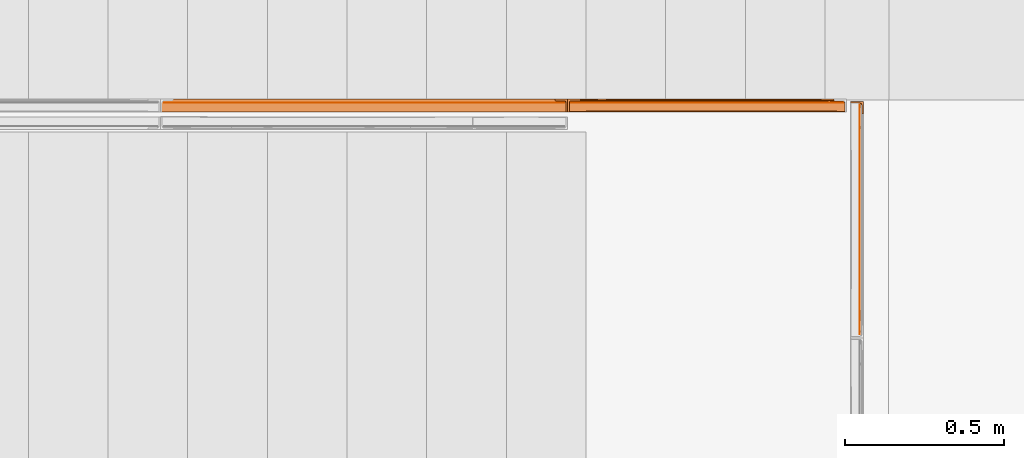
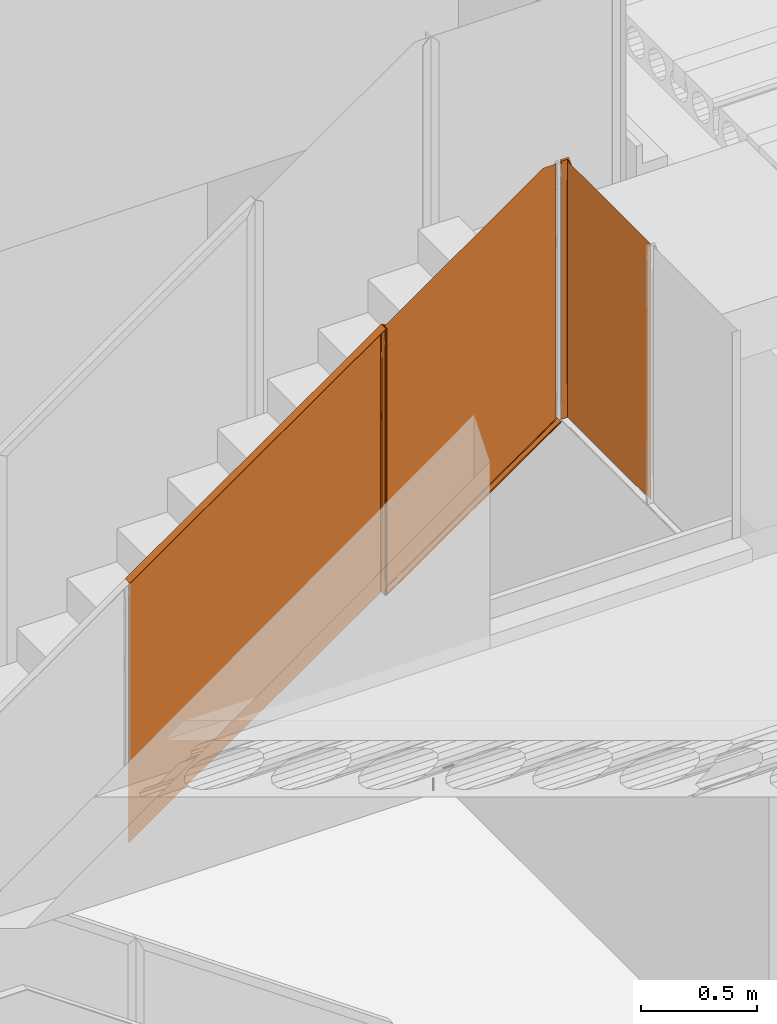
# One storey, part 224 of 230: 8 proxies.
"""IFC4X3_ADD2 building model written with IfcOpenShell, lengths in millimetres."""

import ifcopenshell
import ifcopenshell.guid

model = None  # the IFC model being written
_history = None  # IfcOwnerHistory: only IFC2X3 demands one
_inside = {}  # id of a spatial element -> (the spatial element, [elements in it])
_under = {}  # id of a project, library or spatial element -> (it, [spatial elements below it])
_declared = {}  # id of a project -> (the project, [libraries it declares])
_typed = {}  # id of a type object -> (the type object, [elements of that type])
_made_of = {}  # id of a material, layer set ... -> (it, [elements and type objects made of it])


def new_model(schema):
    """Start an empty IFC model of exactly this schema.

    Asked for "IFC4X3", IfcOpenShell would pick the latest addendum, in which some entities
    have other attributes; the version numbers below select the first issue.
    IFC2X3 requires an IfcOwnerHistory on every rooted entity: one is made here for all.
    """
    global model, _history
    if schema == "IFC4X3":
        model = ifcopenshell.file(schema_version=(4, 3, 0, 0))
    else:
        model = ifcopenshell.file(schema=schema)
    _inside.clear()
    _under.clear()
    _declared.clear()
    _typed.clear()
    _made_of.clear()
    _history = None
    if model.schema == "IFC2X3":
        org = make("IfcOrganization", Name="unknown")
        user = make(
            "IfcPersonAndOrganization",
            ThePerson=make("IfcPerson", FamilyName="unknown"),
            TheOrganization=org,
        )
        app = make(
            "IfcApplication",
            ApplicationDeveloper=org,
            Version="unknown",
            ApplicationFullName="unknown",
            ApplicationIdentifier="unknown",
        )
        _history = make(
            "IfcOwnerHistory",
            OwningUser=user,
            OwningApplication=app,
            ChangeAction="ADDED",
            CreationDate=0,
        )
    return model


def make(cls, **values):
    """One entity of the class cls with the attributes given. An attribute that is None is left unset."""
    return model.create_entity(
        cls, **{name: value for name, value in values.items() if value is not None}
    )


def rooted(cls, **values):
    """An entity with a GlobalId (a new one), such as an element, a storey or a relation."""
    return make(cls, GlobalId=ifcopenshell.guid.new(), OwnerHistory=_history, **values)


def si_unit(unit_type, name, prefix=None):
    """IfcSIUnit, for example si_unit("LENGTHUNIT", "METRE", prefix="MILLI")."""
    return make("IfcSIUnit", UnitType=unit_type, Prefix=prefix, Name=name)


def assignment(units):
    """IfcUnitAssignment: the units of a project."""
    return None if units is None else make("IfcUnitAssignment", Units=units)


def point(xyz):
    """IfcCartesianPoint."""
    return None if xyz is None else make("IfcCartesianPoint", Coordinates=xyz)


def direction(xyz):
    """IfcDirection."""
    return None if xyz is None else make("IfcDirection", DirectionRatios=xyz)


def frame(location, z_axis=None, x_axis=None):
    """IfcAxis2Placement3D, a coordinate frame: its origin and axes. An axis left out is left unset."""
    return make(
        "IfcAxis2Placement3D",
        Location=point(location),
        Axis=direction(z_axis),
        RefDirection=direction(x_axis),
    )


def origin_with_axes():
    """The frame at (0, 0, 0) with the z axis (0, 0, 1) and the x axis (1, 0, 0) written out."""
    return frame((0.0, 0.0, 0.0), z_axis=(0.0, 0.0, 1.0), x_axis=(1.0, 0.0, 0.0))


def place(relative_to, where):
    """IfcLocalPlacement: puts the frame where relative to a parent placement (None: the world)."""
    return make(
        "IfcLocalPlacement", PlacementRelTo=relative_to, RelativePlacement=where
    )


def context(
    kind, dimensions, precision=None, world=None, true_north=None, identifier=None
):
    """IfcGeometricRepresentationContext, for example the 3D "Model" context."""
    return make(
        "IfcGeometricRepresentationContext",
        ContextIdentifier=identifier,
        ContextType=kind,
        CoordinateSpaceDimension=dimensions,
        Precision=precision,
        WorldCoordinateSystem=world,
        TrueNorth=true_north,
    )


def subcontext(parent, identifier, kind, view, scale=None):
    """IfcGeometricRepresentationSubContext, for example "Body" below "Model"."""
    return make(
        "IfcGeometricRepresentationSubContext",
        ContextIdentifier=identifier,
        ContextType=kind,
        ParentContext=parent,
        TargetScale=scale,
        TargetView=view,
    )


def project(units=None, contexts=None):
    """IfcProject with its units and contexts."""
    return rooted(
        "IfcProject",
        Name="project",
        RepresentationContexts=contexts,
        UnitsInContext=assignment(units),
    )


def spatial(cls, under=None, at=None, **own):
    """A site, building, storey or space (cls), placed at a placement, below another one or the project."""
    s = rooted(cls, ObjectPlacement=at, **own)
    if under is not None:
        _under.setdefault(under.id(), (under, []))[1].append(s)
    return s


def point_list(points):
    """IfcCartesianPointList2D or 3D."""
    cls = (
        "IfcCartesianPointList2D" if len(points[0]) == 2 else "IfcCartesianPointList3D"
    )
    return make(cls, CoordList=points)


def triangles(points, corners, closed=None, point_numbers=None):
    """IfcTriangulatedFaceSet: each triangle names its three corners, points numbered from 1."""
    return make(
        "IfcTriangulatedFaceSet",
        Coordinates=point_list(points),
        Closed=closed,
        CoordIndex=corners,
        PnIndex=point_numbers,
    )


def polygons(points, faces, closed=None, point_numbers=None):
    """IfcPolygonalFaceSet: a face is its outer loop, then its inner loops; points numbered from 1."""
    made = []
    for loops in faces:
        if len(loops) == 1:
            made.append(make("IfcIndexedPolygonalFace", CoordIndex=loops[0]))
        else:
            made.append(
                make(
                    "IfcIndexedPolygonalFaceWithVoids",
                    CoordIndex=loops[0],
                    InnerCoordIndices=loops[1:],
                )
            )
    return make(
        "IfcPolygonalFaceSet",
        Coordinates=point_list(points),
        Closed=closed,
        Faces=made,
        PnIndex=point_numbers,
    )


def shape(context_of_items, identifier, shape_type, items):
    """IfcShapeRepresentation: the items that make up one representation, for example the "Body"."""
    return make(
        "IfcShapeRepresentation",
        ContextOfItems=context_of_items,
        RepresentationIdentifier=identifier,
        RepresentationType=shape_type,
        Items=items,
    )


def source(mapping_origin, context_of_items, identifier, shape_type, items):
    """IfcRepresentationMap: a shape defined once, which mapped items show again and again."""
    return make(
        "IfcRepresentationMap",
        MappingOrigin=mapping_origin,
        MappedRepresentation=shape(context_of_items, identifier, shape_type, items),
    )


def transform(
    local_origin,
    x_axis=None,
    y_axis=None,
    z_axis=None,
    scale=None,
    scale2=None,
    scale3=None,
    uniform=True,
):
    """IfcCartesianTransformationOperator3D, or its non-uniform kind. x_axis, y_axis, z_axis: its Axis1, 2, 3."""
    if uniform:
        return make(
            "IfcCartesianTransformationOperator3D",
            Axis1=direction(x_axis),
            Axis2=direction(y_axis),
            LocalOrigin=point(local_origin),
            Scale=scale,
            Axis3=direction(z_axis),
        )
    return make(
        "IfcCartesianTransformationOperator3DnonUniform",
        Axis1=direction(x_axis),
        Axis2=direction(y_axis),
        LocalOrigin=point(local_origin),
        Scale=scale,
        Axis3=direction(z_axis),
        Scale2=scale2,
        Scale3=scale3,
    )


def mapped(mapping_source, mapping_target):
    """IfcMappedItem: shows the shape of a source again, moved by a transform."""
    return make(
        "IfcMappedItem", MappingSource=mapping_source, MappingTarget=mapping_target
    )


def material(Name=None, Category=None):
    """IfcMaterial."""
    return make("IfcMaterial", Name=Name, Category=Category)


def made_of(thing, what):
    """Note that an element or type object is made of a material, layer set ...; save() writes the relation."""
    if what is not None:
        _made_of.setdefault(what.id(), (what, []))[1].append(thing)
    return thing


def type_object(cls, material=None, **own):
    """A type object (cls), such as IfcWallType, which elements share."""
    return made_of(rooted(cls, **own), material)


def type_shapes(of_type, sources):
    """Give a type object the sources (RepresentationMaps) that its elements show as mapped items."""
    of_type.RepresentationMaps = sources


def element(
    cls,
    number,
    at=None,
    inside=None,
    cuts=None,
    type_object=None,
    material=None,
    context=None,
    identifier="Body",
    shape_type=None,
    held_by="IfcProductDefinitionShape",
    body=None,
    shapes=None,
    **own,
):
    """One element of the class cls, such as IfcWall. Its Tag is "e" and its number.

    at: its placement. inside: the storey or other place that contains it. cuts: it is an
    opening in that element (IfcRelVoidsElement). A single representation is given by context,
    identifier, shape_type and body (its items); several are given by shapes. held_by: the class
    of the entity that holds the representations. save() writes the other relations.
    """
    e = rooted(cls, Tag="e%d" % number, ObjectPlacement=at, **own)
    if body is not None:
        shapes = [shape(context, identifier, shape_type, body)]
    if shapes is not None:
        e.Representation = make(held_by, Representations=shapes)
    if inside is not None:
        _inside.setdefault(inside.id(), (inside, []))[1].append(e)
    if cuts is not None:
        rooted(
            "IfcRelVoidsElement", RelatingBuildingElement=cuts, RelatedOpeningElement=e
        )
    if type_object is not None:
        _typed.setdefault(type_object.id(), (type_object, []))[1].append(e)
    return made_of(e, material)


def aggregate(whole, parts):
    """IfcRelAggregates: a whole, such as a stair, and the parts it consists of."""
    return rooted("IfcRelAggregates", RelatingObject=whole, RelatedObjects=parts)


def save(model, path):
    """Write the relations noted so far, then the file.

    IfcRelAggregates (storeys below a building ...), IfcRelContainedInSpatialStructure (elements
    in a storey), IfcRelDefinesByType, IfcRelAssociatesMaterial and IfcRelDeclares: one each for
    every whole, place, type object, material and project.
    """
    for whole, parts in _under.values():
        aggregate(whole, parts)
    for where, things in _inside.values():
        rooted(
            "IfcRelContainedInSpatialStructure",
            RelatedElements=things,
            RelatingStructure=where,
        )
    for kind, things in _typed.values():
        rooted("IfcRelDefinesByType", RelatedObjects=things, RelatingType=kind)
    for what, things in _made_of.values():
        rooted("IfcRelAssociatesMaterial", RelatedObjects=things, RelatingMaterial=what)
    for by, libraries in _declared.values():
        rooted("IfcRelDeclares", RelatingContext=by, RelatedDefinitions=libraries)
    model.write(path)


model = new_model("IFC4X3_ADD2")

# Units and contexts
model_context = context("Model", 3, precision=1e-05, world=origin_with_axes(), true_north=direction((0.0, 1.0)))
body_context = subcontext(model_context, "Body", "Model", "MODEL_VIEW")
ifc_project = project(units=[si_unit("LENGTHUNIT", "METRE", prefix="MILLI"), si_unit("AREAUNIT", "SQUARE_METRE"), si_unit("VOLUMEUNIT", "CUBIC_METRE"), si_unit("PLANEANGLEUNIT", "RADIAN"), si_unit("TIMEUNIT", "SECOND"), si_unit("MASSUNIT", "GRAM")], contexts=[model_context])

# Site, building, storey
site_placement = place(None, origin_with_axes())
site = spatial("IfcSite", under=ifc_project, at=site_placement, Name="Site", CompositionType="ELEMENT")
building_placement = place(site_placement, origin_with_axes())
building = spatial("IfcBuilding", under=site, at=building_placement, Name="IFC Building Story")
storey_placement = place(building_placement, origin_with_axes())
storey = spatial("IfcBuildingStorey", under=building, at=storey_placement, Name="ETAGE 00 (0)", Elevation=0.0)

# Proxies
ifc_material = material(Name="<Unnamed>")
building_element_proxy_type_1 = type_object("IfcBuildingElementProxyType", Name="105", PredefinedType="NOTDEFINED")
shared_shape_1 = source(origin_with_axes(), body_context, "Body", "Tessellation", [
    triangles([(37654.1900024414, 1887.49990539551, 3478.38826446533), (38449.1903137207, 1887.49990539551, 4034.97289581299), (37753.7629943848, 1885.50002746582, 3548.10028839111), (38449.1903137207, 1885.50002746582, 4034.97289581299), (37654.1900024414, 1885.50002746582, 3478.38826446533), (38478.1885437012, 1882.49991989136, 4019.87643356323), (38452.1901306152, 1882.49991989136, 4033.41107254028), (38489.1901977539, 1887.49990539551, 4014.15003890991), (38479.6651977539, 1882.29193840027, 4019.10787582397), (38481.1069702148, 1881.68151054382, 4018.35821228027), (38482.2813171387, 1880.8094707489, 4017.74691238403), (38450.3344299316, 1883.18345375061, 4034.37700195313), (38449.4623901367, 1884.27742767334, 4034.83046264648), (38451.7831787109, 1882.5320400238, 4033.62239685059), (38486.7833679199, 1847.53199615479, 4015.40316009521), (38485.3346191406, 1848.18006706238, 4016.15660247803), (38484.1905029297, 1850.4999835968, 4016.75278701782), (38487.1903198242, 1847.5000213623, 4015.19125442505), (38489.1901977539, 1847.5000213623, 4014.15003890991), (38484.4649047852, 1849.27113418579, 4016.60977249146), (38483.2091674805, 1879.71636886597, 4017.26322097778), (38484.1184143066, 1877.40677146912, 4016.78999404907), (38484.1905029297, 1876.49999542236, 4016.75278701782), (37614.1901184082, 1847.5000213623, 3401.54905929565), (37616.1899963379, 1847.5000213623, 3405.39097595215), (37725.0647460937, 1847.5000213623, 3481.61597442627), (37833.9394958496, 1847.5000213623, 3557.84097290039), (38378.3155700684, 1847.5000213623, 3938.96625595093), (37619.1898132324, 1876.49999542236, 3411.15399627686), (37727.3134460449, 1876.49999542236, 3486.8537361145), (37619.1898132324, 1850.4999835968, 3411.15399627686), (37727.5134338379, 1850.4999835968, 3486.99297180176), (37835.4394042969, 1876.49999542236, 3562.55376663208), (37943.5653625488, 1876.49999542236, 3638.25350646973), (38159.8149536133, 1876.49999542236, 3789.65327682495), (38376.06454467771, 1876.49999542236, 3941.05304718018), (38051.6889953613, 1876.49999542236, 3713.9535369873), (38158.1731933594, 1879.60082359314, 3792.23974685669), (38050.5495300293, 1882.49991989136, 3720.47930145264), (38373.1554199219, 1879.50620727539, 3942.63347396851), (38051.112286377, 1879.59094047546, 3717.246068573), (37623.5802429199, 1882.11069946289, 3419.58952789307), (37837.8741394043, 1882.19674072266, 3569.27719345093), (37836.497479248, 1880.62038345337, 3566.5750328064), (37622.3035766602, 1881.80156135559, 3417.13647994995), (37619.3316650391, 1877.98493385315, 3411.42810745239), (37619.9013977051, 1879.56288986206, 3412.5196105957), (37944.1723022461, 1880.16474266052, 3641.8297416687), (37621.5989685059, 1881.29984779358, 3415.7827835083), (37620.7269287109, 1880.67982749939, 3414.10933914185), (37834.8371154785, 1878.72921981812, 3563.33366088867), (37944.5071655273, 1882.13366317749, 3643.82351531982), (37625.1894470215, 1882.49991989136, 3422.67974624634), (37838.6089782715, 1882.49991989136, 3572.09707946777), (37944.6350646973, 1882.49991989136, 3646.32801361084), (38352.063684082, 1882.49991989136, 3963.31273498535), (37851.4384277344, 1882.49991989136, 3612.82162857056), (37751.3143066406, 1882.49991989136, 3542.72358169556), (37651.1901855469, 1882.49991989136, 3472.62524414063), (37652.9830993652, 1883.11398124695, 3476.07096405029), (37752.5979492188, 1884.03994216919, 3545.5434677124), (37652.3738342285, 1882.73885879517, 3474.90010528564), (37851.0012451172, 1884.04343032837, 3614.3994392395), (37653.3319152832, 1883.32835769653, 3476.74010925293), (37653.7597961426, 1883.84591331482, 3477.56244277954), (37654.0946594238, 1884.65821838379, 3478.20746154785), (37614.1901184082, 1887.49990539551, 3401.54905929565), (37617.9852355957, 1848.11030387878, 3408.83873062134), (37726.3460632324, 1849.04207839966, 3484.43527908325), (37617.3782958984, 1847.73779754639, 3407.67310409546), (37833.499987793, 1849.04353179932, 3559.41733016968), (37618.3317260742, 1848.32337226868, 3409.50525970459), (37618.7596069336, 1848.8394744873, 3410.32584915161), (37619.0944702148, 1849.6525062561, 3410.97203063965)], [[1, 2, 3], [4, 3, 2], [3, 5, 1], [2, 6, 7], [6, 2, 8], [9, 6, 8], [10, 9, 8], [8, 11, 10], [2, 7, 4], [4, 12, 13], [12, 4, 14], [7, 14, 4], [15, 16, 17], [15, 17, 18], [19, 18, 17], [20, 17, 16], [21, 11, 8], [22, 8, 23], [17, 23, 19], [21, 8, 22], [23, 8, 19], [24, 25, 26], [24, 26, 27], [27, 28, 19], [18, 19, 28], [27, 19, 24], [29, 30, 31], [30, 32, 31], [32, 30, 33], [32, 33, 34], [17, 35, 36], [17, 36, 23], [35, 32, 37], [32, 35, 17], [37, 32, 34], [38, 39, 6], [6, 40, 38], [41, 38, 35], [42, 43, 44], [44, 45, 42], [30, 46, 47], [40, 6, 9], [40, 9, 10], [40, 10, 11], [35, 38, 40], [40, 36, 35], [36, 11, 21], [36, 22, 23], [36, 21, 22], [44, 48, 34], [34, 33, 44], [44, 30, 49], [50, 49, 30], [30, 47, 50], [30, 51, 33], [48, 41, 37], [43, 52, 48], [53, 54, 43], [55, 39, 41], [41, 52, 55], [54, 55, 52], [52, 43, 54], [41, 48, 52], [43, 42, 53], [48, 44, 43], [37, 34, 48], [44, 51, 30], [33, 51, 44], [11, 36, 40], [30, 29, 46], [44, 49, 45], [35, 37, 41], [38, 41, 39], [6, 56, 7], [56, 6, 39], [57, 56, 39], [39, 55, 57], [54, 53, 58], [54, 58, 57], [58, 53, 59], [54, 57, 55], [60, 61, 58], [58, 62, 60], [4, 56, 63], [57, 63, 56], [63, 3, 4], [56, 4, 13], [56, 14, 7], [56, 12, 14], [56, 13, 12], [64, 65, 61], [65, 66, 61], [61, 66, 5], [5, 3, 61], [61, 63, 57], [63, 61, 3], [57, 58, 61], [61, 60, 64], [58, 59, 62], [8, 2, 1], [1, 67, 8], [8, 67, 19], [24, 19, 67], [68, 69, 26], [26, 70, 68], [17, 28, 71], [27, 71, 28], [71, 32, 17], [28, 17, 20], [28, 15, 18], [28, 16, 15], [28, 20, 16], [72, 73, 69], [73, 74, 69], [69, 74, 31], [31, 32, 69], [69, 71, 27], [71, 69, 32], [27, 26, 69], [69, 68, 72], [26, 25, 70], [60, 1, 5], [65, 5, 66], [64, 60, 5], [64, 5, 65], [1, 60, 62], [59, 53, 1], [59, 1, 62], [1, 53, 67], [42, 45, 67], [53, 42, 67], [67, 45, 49], [50, 47, 67], [49, 50, 67], [29, 31, 24], [29, 24, 67], [47, 46, 67], [73, 72, 31], [72, 68, 31], [25, 31, 70], [31, 25, 24], [68, 70, 31], [31, 74, 73], [29, 67, 46]]),
])
type_shapes(building_element_proxy_type_1, [shared_shape_1])
proxy_1_placement = place(storey_placement, origin_with_axes())
element("IfcBuildingElementProxy", 1, at=proxy_1_placement, inside=storey, type_object=building_element_proxy_type_1, material=ifc_material, Name="53", ObjectType="53", context=body_context, shape_type="MappedRepresentation", body=[
    mapped(shared_shape_1, transform((0.0, 0.0, 0.0))),
])
building_element_proxy_type_2 = type_object("IfcBuildingElementProxyType", Name="111", PredefinedType="NOTDEFINED")
shared_shape_2 = source(origin_with_axes(), body_context, "Body", "Tessellation", [
    triangles([(38542.1195251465, 1840.42894134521, 4039.99991455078), (38540.1173217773, 1840.42894134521, 4039.99991455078), (38540.1173217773, 1840.42894134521, 5330.00024414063), (38542.1195251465, 1840.42894134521, 5330.00024414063), (38537.1175048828, 1843.42890357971, 5333.00006103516), (38539.0569213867, 1840.60988960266, 5330.181047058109), (38538.0383789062, 1841.26479148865, 5330.83565826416), (38537.1175048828, 1869.42891540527, 5359.00021820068), (38542.1195251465, 1880.42882537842, 5370.00012817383), (38536.8035705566, 1871.25729217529, 5360.8285949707), (38535.9454833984, 1872.9611125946, 5362.53197937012), (38533.9432800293, 1874.75359039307, 5364.324893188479), (38531.1178710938, 1875.42883987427, 5364.99985198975), (38502.1173156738, 1880.42882537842, 5370.00012817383), (38505.1194580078, 1875.42883987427, 5364.99985198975), (38504.0567321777, 1875.60993347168, 5365.18065490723), (38503.0381896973, 1876.26483535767, 5365.83584747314), (38502.1173156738, 1878.42894744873, 5368.00025024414), (38502.1196411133, 1880.42882537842, 4000.00003051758), (38542.1195251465, 1880.42882537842, 4000.00003051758), (38505.1194580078, 1875.42883987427, 4005.00001602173), (38531.1178710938, 1875.42883987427, 4344.99990234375), (38531.1178710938, 1875.42883987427, 4005.00001602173), (38531.1178710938, 1875.42883987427, 4685.0000793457), (38531.1178710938, 1875.42883987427, 5025.00025634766), (38534.1339660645, 1872.44966125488, 5022.94921875), (38533.8921203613, 1874.79007072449, 4005.63893051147), (38531.3899475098, 1875.42375297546, 4005.0052482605), (38535.547833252, 1873.49131278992, 4006.93768844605), (38534.1223388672, 1872.44399299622, 4347.048614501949), (38537.1175048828, 1869.42891540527, 4010.99994049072), (38536.7803161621, 1871.35030975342, 4009.07854614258), (38534.2223327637, 1872.34051094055, 4684.99978866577), (38537.1175048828, 1869.42862472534, 5020.87492675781), (38537.1175048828, 1843.42890357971, 4199.00009307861), (38537.1175048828, 1843.42890357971, 4037.00009765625), (38537.1175048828, 1843.42890357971, 5171.00006561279), (38538.8360046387, 1840.69738426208, 4039.73161697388), (38537.9662902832, 1841.32903175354, 4039.09996948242), (38502.1173156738, 1878.42894744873, 5197.25020751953), (38502.1196411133, 1878.42880210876, 4172.74995117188), (38503.8358154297, 1875.6974281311, 4004.73142776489), (38502.9661010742, 1876.32893028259, 4004.09978027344), (38502.1196411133, 1878.42894744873, 4001.99990844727)], [[1, 2, 3], [3, 4, 1], [5, 4, 3], [6, 7, 3], [5, 3, 7], [4, 8, 9], [8, 4, 5], [8, 10, 9], [9, 10, 11], [11, 12, 9], [13, 14, 9], [12, 13, 9], [15, 16, 17], [18, 14, 15], [18, 15, 17], [15, 14, 13], [14, 19, 9], [20, 9, 19], [21, 22, 23], [22, 21, 24], [24, 15, 25], [15, 24, 21], [13, 25, 15], [13, 26, 25], [12, 11, 26], [26, 13, 12], [22, 27, 28], [22, 28, 23], [22, 29, 27], [30, 31, 32], [31, 30, 33], [33, 34, 31], [30, 32, 29], [11, 10, 26], [8, 34, 26], [26, 10, 8], [26, 33, 24], [33, 26, 34], [24, 25, 26], [29, 22, 30], [30, 22, 24], [24, 33, 30], [31, 35, 36], [35, 31, 34], [34, 8, 37], [5, 37, 8], [34, 37, 35], [7, 6, 37], [37, 5, 7], [37, 6, 3], [37, 3, 35], [2, 35, 3], [35, 2, 38], [35, 39, 36], [35, 38, 39], [20, 1, 4], [4, 9, 20], [17, 16, 40], [40, 18, 17], [40, 16, 15], [40, 15, 41], [21, 41, 15], [41, 21, 42], [41, 43, 44], [41, 42, 43], [14, 18, 40], [14, 40, 41], [41, 44, 19], [41, 19, 14], [1, 31, 36], [31, 1, 20], [32, 31, 20], [29, 32, 20], [2, 1, 36], [2, 39, 38], [39, 2, 36], [44, 43, 21], [19, 44, 21], [42, 21, 43], [27, 29, 20], [28, 20, 23], [21, 23, 19], [27, 20, 28], [23, 20, 19]]),
])
type_shapes(building_element_proxy_type_2, [shared_shape_2])
proxy_2_placement = place(storey_placement, origin_with_axes())
element("IfcBuildingElementProxy", 2, at=proxy_2_placement, inside=storey, type_object=building_element_proxy_type_2, material=ifc_material, Name="56", ObjectType="56", context=body_context, shape_type="MappedRepresentation", body=[
    mapped(shared_shape_2, transform((0.0, 0.0, 0.0))),
])
building_element_proxy_type_3 = type_object("IfcBuildingElementProxyType", Name="117", PredefinedType="NOTDEFINED")
shared_shape_3 = source(origin_with_axes(), body_context, "Body", "Tessellation", [
    polygons([(0.0, 719.7270949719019, 0.0), (0.0, 0.0, 0.0), (0.0, 0.0, 1347.99999999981), (0.0, 719.7270949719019, 1347.9999999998)], [[[1, 2, 3, 4]]]),
])
type_shapes(building_element_proxy_type_3, [shared_shape_3])
proxy_3_placement = place(storey_placement, frame((38531.1184103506, 1149.70180097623, 4011.00000000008), z_axis=(0.0, 0.0, 1.0), x_axis=(1.0, 0.0, 0.0)))
element("IfcBuildingElementProxy", 3, at=proxy_3_placement, inside=storey, type_object=building_element_proxy_type_3, material=ifc_material, Name="61", ObjectType="61", context=body_context, shape_type="MappedRepresentation", body=[
    mapped(shared_shape_3, transform((0.0, 0.0, 0.0))),
])
building_element_proxy_type_4 = type_object("IfcBuildingElementProxyType", Name="141", PredefinedType="NOTDEFINED")
shared_shape_4 = source(origin_with_axes(), body_context, "Body", "Tessellation", [
    polygons([(40.0, 40.0005689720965, 0.0), (40.0, 38.0005689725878, 0.0), (189.687500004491, 38.0005689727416, 104.671534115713), (339.375000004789, 38.000568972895, 209.343068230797), (489.062500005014, 38.0005689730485, 314.014602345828), (638.750000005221, 38.000568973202, 418.68613646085), (788.437500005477, 38.0005689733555, 523.3576705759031), (938.125000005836, 38.0005689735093, 628.029204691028), (1087.81250000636, 38.0005689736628, 732.700738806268), (1237.50000000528, 38.0005689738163, 837.3722729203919), (1237.50000000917, 40.0005689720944, 837.37227292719), (1237.59276004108, 37.0504340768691, 837.552523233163), (1237.93331130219, 36.1610247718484, 838.2142788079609), (1238.93166690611, 35.283757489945, 840.15427275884), (1240.5000000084, 35.0005680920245, 843.2018408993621), (1266.50000001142, 35.0005670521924, 893.724763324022), (1269.06788016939, 34.6564936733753, 898.714640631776), (1270.1727480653, 34.0574830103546, 900.861608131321), (1270.71781595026, 33.76197123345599, 901.9207782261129), (1271.53327856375, 32.844723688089, 903.505376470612), (1272.26399856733, 31.1310670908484, 904.9253037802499), (1272.50000000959, 29.0005689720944, 905.3838992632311), (1272.50000000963, 3.00056897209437, 905.383899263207), (1272.59298618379, 2.04823502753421, 905.564589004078), (1272.93354729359, 1.15898229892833, 906.2263637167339), (1273.93022096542, 0.283232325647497, 908.163089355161), (1275.50000001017, 0.0005689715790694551, 911.21346723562), (1277.50000000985, 0.00113709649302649, 915.099845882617), (1277.50000000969, 40.0005689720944, 915.099845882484), (1116.50581964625, 0.000457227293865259, 799.891574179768), (957.199601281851, 0.000421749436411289, 688.351203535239), (797.709746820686, 0.000386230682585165, 576.682257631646), (638.164658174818, 0.000350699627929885, 464.974638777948), (478.692737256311, 0.000315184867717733, 353.318249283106), (319.422385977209, 0.000279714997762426, 241.802991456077), (160.482006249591, 0.000244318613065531, 130.518767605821), (1.99999998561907, 0.000209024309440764, 19.5554800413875), (1.2188319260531e-07, 0.000763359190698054, 20.5847156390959), (955.774203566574, 29.0005689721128, 683.64528791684), (319.969712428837, 29.0005689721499, 238.520809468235), (5.00000000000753, 29.0005689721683, 18.0116263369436), (5.00000000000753, 3.00056897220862, 18.0116263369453), (163.437500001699, 3.00056897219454, 128.933160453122), (321.87500000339, 3.00056897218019, 239.8546945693), (480.312500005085, 3.00056897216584, 350.776228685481), (638.750000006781, 3.0005689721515, 461.697762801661), (797.187500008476, 3.00056897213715, 572.619296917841), (955.625000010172, 3.00056897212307, 683.540831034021), (1114.06250001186, 3.00056897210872, 794.4623651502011), (952.6246293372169, 35.0012215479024, 674.025081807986), (10.9996293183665, 35.0012238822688, 14.9244485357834), (322.449590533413, 32.0623287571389, 236.555101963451), (638.178657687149, 32.0691061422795, 457.544720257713), (9.98011778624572, 34.9121039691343, 15.4487686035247), (7.221698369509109, 33.6788508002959, 16.8683005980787), (5.55319078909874, 31.5711558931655, 17.726944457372), (954.259640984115, 31.9222720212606, 679.0074090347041), (1090.25588125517, 35.0005677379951, 738.129832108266), (939.6996124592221, 35.0005681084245, 632.8395237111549), (788.959642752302, 35.0005684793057, 527.420745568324), (638.164421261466, 35.000568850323, 421.963327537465), (487.44239711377, 35.0005692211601, 316.557099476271), (336.922019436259, 35.0005695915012, 211.291891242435), (186.731737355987, 35.0005699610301, 106.257532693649), (37.0000000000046, 35.0005703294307, 1.54385368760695), (39.9902406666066, 37.7518965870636, 0.00502232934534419), (39.6004225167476, 36.4862665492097, 0.205629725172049), (38.6040595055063, 35.4654899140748, 0.718375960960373), (0.0, 40.0005689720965, 20.584715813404), (4.99055689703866, 2.75443298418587, 18.0164859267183), (4.60426994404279, 1.48755593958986, 18.2152761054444), (3.61760519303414, 0.470384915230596, 18.7230314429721)], [[[9, 10, 11]], [[11, 8, 9]], [[11, 7, 8]], [[11, 6, 7]], [[11, 5, 6]], [[11, 4, 5]], [[11, 3, 4]], [[11, 1, 3]], [[1, 2, 3]], [[27, 28, 29]], [[27, 29, 22]], [[22, 23, 24]], [[22, 24, 25]], [[22, 25, 26]], [[22, 26, 27]], [[29, 21, 22]], [[29, 20, 21]], [[29, 19, 20]], [[29, 18, 19]], [[29, 17, 18]], [[29, 16, 17]], [[29, 11, 15]], [[29, 15, 16]], [[11, 10, 12]], [[11, 12, 13]], [[11, 13, 14]], [[11, 14, 15]], [[36, 37, 38]], [[38, 35, 36]], [[38, 34, 35]], [[38, 33, 34]], [[38, 32, 33]], [[38, 31, 32]], [[38, 30, 31]], [[38, 28, 30]], [[28, 27, 30]], [[43, 44, 40]], [[40, 41, 42]], [[40, 42, 43]], [[47, 48, 39]], [[39, 46, 47]], [[46, 39, 40]], [[40, 45, 46]], [[40, 44, 45]], [[49, 23, 22]], [[49, 22, 39]], [[39, 48, 49]], [[50, 51, 52, 53]], [[51, 54, 52]], [[55, 56, 52]], [[52, 54, 55]], [[57, 53, 40, 39]], [[16, 50, 57]], [[57, 17, 16]], [[21, 20, 39]], [[20, 19, 39]], [[18, 57, 39]], [[39, 19, 18]], [[40, 52, 56]], [[56, 41, 40]], [[53, 52, 40]], [[39, 22, 21]], [[57, 18, 17]], [[53, 57, 50]], [[58, 59, 50]], [[50, 16, 15]], [[50, 15, 58]], [[64, 65, 51]], [[51, 63, 64]], [[51, 62, 63]], [[51, 61, 62]], [[51, 50, 61]], [[50, 60, 61]], [[50, 59, 60]], [[7, 6, 61]], [[64, 3, 2]], [[2, 66, 64]], [[66, 67, 64]], [[68, 65, 64]], [[64, 67, 68]], [[9, 8, 59]], [[8, 7, 60]], [[13, 12, 58]], [[58, 14, 13]], [[58, 15, 14]], [[58, 12, 10]], [[10, 9, 58]], [[4, 63, 62]], [[3, 64, 63]], [[6, 5, 62]], [[62, 61, 6]], [[63, 4, 3]], [[62, 5, 4]], [[60, 59, 8]], [[59, 58, 9]], [[61, 60, 7]], [[69, 1, 11, 29]], [[29, 28, 38, 69]], [[47, 46, 33]], [[36, 43, 42]], [[42, 70, 36]], [[70, 71, 36]], [[72, 37, 36]], [[36, 71, 72]], [[49, 48, 31]], [[48, 47, 32]], [[25, 24, 30]], [[30, 26, 25]], [[30, 27, 26]], [[30, 24, 23]], [[23, 49, 30]], [[44, 35, 34]], [[43, 36, 35]], [[46, 45, 34]], [[34, 33, 46]], [[35, 44, 43]], [[34, 45, 44]], [[32, 31, 48]], [[31, 30, 49]], [[33, 32, 47]], [[2, 1, 69]], [[2, 69, 51]], [[51, 65, 68]], [[51, 68, 67]], [[51, 67, 66]], [[51, 66, 2]], [[69, 54, 51]], [[69, 55, 54]], [[69, 56, 55]], [[69, 41, 56]], [[69, 38, 42]], [[69, 42, 41]], [[38, 37, 72]], [[38, 72, 71]], [[38, 71, 70]], [[38, 70, 42]]]),
])
type_shapes(building_element_proxy_type_4, [shared_shape_4])
proxy_4_placement = place(storey_placement, frame((36336.6894781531, 1847.49939478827, 3896.9215348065), z_axis=(0.0, 0.0, 1.0), x_axis=(1.0, 0.0, 0.0)))
element("IfcBuildingElementProxy", 4, at=proxy_4_placement, inside=storey, type_object=building_element_proxy_type_4, material=ifc_material, Name="76", ObjectType="76", context=body_context, shape_type="MappedRepresentation", body=[
    mapped(shared_shape_4, transform((0.0, 0.0, 0.0))),
])
building_element_proxy_type_5 = type_object("IfcBuildingElementProxyType", Name="145", PredefinedType="NOTDEFINED")
shared_shape_5 = source(origin_with_axes(), body_context, "Body", "Tessellation", [
    polygons([(0.0, 40.0006243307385, 1332.74482635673), (0.0, 38.0006243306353, 1332.7448263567), (0.0, 38.0006243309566, 20.8226820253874), (0.0, 40.0006243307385, 20.8226820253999), (40.0, 7.79731901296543e-05, 0.0), (38.0000000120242, 0.000391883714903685, 1.04113410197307), (38.0000000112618, 0.000489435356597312, 176.734244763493), (38.0000000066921, 0.00107474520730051, 1230.89290986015), (38.0000000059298, 0.00117229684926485, 1406.58602064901), (40.0, 0.0008611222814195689, 1410.47239931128), (40.0, 40.00062433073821, 1410.47239931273), (36.1728673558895, 0.394347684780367, 1403.0355560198), (35.5423016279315, 0.946169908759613, 1401.81024742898), (35.1532574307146, 1.75268751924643, 1401.05426089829), (34.9999999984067, 3.000624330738, 1400.756452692), (34.9999999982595, 29.000624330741, 1400.75645269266), (34.8781296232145, 30.6615367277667, 1400.51963548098), (34.2025576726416, 32.6777394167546, 1399.2068712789), (33.5231944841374, 33.4331321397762, 1397.88673998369), (33.0444920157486, 33.9654076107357, 1396.95653045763), (32.0244320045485, 34.5157309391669, 1394.97436073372), (28.9999999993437, 35.0006243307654, 1389.09731674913), (3.0000000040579, 35.0006243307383, 1338.57439432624), (1.17143667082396, 35.3965171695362, 1335.02114957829), (0.541273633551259, 35.9496126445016, 1333.79662349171), (0.153114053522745, 36.755179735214, 1333.04235593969), (33.0604884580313, 32.3262338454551, 1222.82232346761), (32.282857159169, 31.7567575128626, 699.760314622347), (32.1276665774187, 31.9115729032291, 525.759745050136), (32.03532811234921, 32.0027220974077, 351.861102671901), (32.0439040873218, 31.9916480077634, 177.997209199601), (34.9982827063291, 28.9989290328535, 177.372031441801), (35.0018813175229, 29.0024815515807, 701.679640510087), (35.000000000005, 29.0006243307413, 1225.98724965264), (28.9989007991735, 34.9995105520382, 5.72623755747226), (28.9989007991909, 34.9995105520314, 870.333159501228), (31.5741236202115, 34.5114068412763, 4.38623361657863), (29.0000000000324, 35.0006243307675, 1043.2545452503), (31.6512213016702, 34.6204431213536, 1046.79950766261), (32.473373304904, 31.6204381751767, 873.874769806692), (32.9634434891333, 32.4009857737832, 1048.55367812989), (31.6686685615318, 34.6297067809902, 1220.54986135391), (35.0000000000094, 29.0006243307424, 876.4488435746), (35.000000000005, 29.0006243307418, 1051.21804661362), (35.0000000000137, 29.0006243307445, 2.60283525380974), (34.9029130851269, 30.1990029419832, 2.65337550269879), (33.9723929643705, 32.5729463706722, 3.13777361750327), (2.99999999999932, 35.0006243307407, 19.2609808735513), (3.00000000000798, 35.0006243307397, 184.175158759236), (3.00000000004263, 35.0006243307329, 1173.66021781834), (1.31078606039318, 35.4546379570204, 20.1403299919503), (0.448354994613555, 36.3191787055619, 20.5892831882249), (36.3087414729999, 0.454940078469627, 1.92154756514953), (35.4459665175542, 1.32146669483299, 2.37067977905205), (34.9999268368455, 3.00055115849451, 2.60283525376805), (40.0, 40.00062433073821, 0.0)], [[[1, 2, 3, 4]], [[8, 9, 10]], [[10, 7, 8]], [[10, 5, 7]], [[5, 6, 7]], [[23, 24, 25]], [[23, 25, 26]], [[23, 26, 2]], [[23, 2, 1]], [[1, 11, 22]], [[1, 22, 23]], [[11, 21, 22]], [[11, 20, 21]], [[11, 19, 20]], [[11, 18, 19]], [[11, 17, 18]], [[11, 16, 17]], [[11, 9, 12]], [[11, 12, 13]], [[11, 13, 14]], [[11, 14, 15]], [[11, 15, 16]], [[11, 10, 9]], [[21, 20, 27]], [[20, 19, 27]], [[30, 31, 32]], [[32, 29, 30]], [[32, 33, 29]], [[33, 28, 29]], [[19, 18, 34]], [[17, 16, 34]], [[34, 18, 17]], [[30, 31, 35]], [[35, 29, 30]], [[35, 28, 29]], [[35, 36, 28]], [[31, 37, 35]], [[38, 39, 40]], [[40, 36, 38]], [[39, 41, 40]], [[42, 39, 38]], [[38, 22, 42]], [[42, 27, 41]], [[36, 40, 28]], [[43, 40, 41]], [[27, 34, 44]], [[40, 43, 33]], [[32, 45, 46]], [[46, 31, 32]], [[47, 37, 31]], [[31, 46, 47]], [[33, 28, 40]], [[44, 41, 27]], [[41, 44, 43]], [[41, 39, 42]], [[22, 21, 42]], [[34, 27, 19]], [[27, 42, 21]], [[49, 36, 35]], [[35, 48, 49]], [[49, 50, 36]], [[50, 38, 36]], [[50, 23, 22]], [[50, 22, 38]], [[50, 49, 3, 2]], [[2, 26, 50]], [[25, 24, 50]], [[50, 26, 25]], [[24, 23, 50]], [[51, 52, 49]], [[49, 52, 3]], [[49, 48, 51]], [[53, 54, 7]], [[55, 15, 8, 7]], [[7, 54, 55]], [[15, 14, 8]], [[13, 12, 8]], [[8, 14, 13]], [[12, 9, 8]], [[7, 6, 53]], [[11, 1, 4, 56]], [[56, 5, 10, 11]], [[34, 16, 15]], [[15, 44, 34]], [[15, 43, 44]], [[15, 33, 43]], [[15, 55, 33]], [[55, 32, 33]], [[55, 45, 32]], [[45, 55, 54]], [[45, 54, 53]], [[45, 53, 6]], [[45, 6, 5]], [[45, 5, 56]], [[56, 46, 45]], [[56, 47, 46]], [[56, 37, 47]], [[56, 35, 37]], [[56, 4, 3]], [[56, 3, 52]], [[56, 52, 51]], [[56, 51, 48]], [[56, 48, 35]]]),
])
type_shapes(building_element_proxy_type_5, [shared_shape_5])
proxy_5_placement = place(storey_placement, frame((37574.1894781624, 1847.49933942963, 3401.54898137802), z_axis=(0.0, 0.0, 1.0), x_axis=(1.0, 0.0, 0.0)))
element("IfcBuildingElementProxy", 5, at=proxy_5_placement, inside=storey, type_object=building_element_proxy_type_5, material=ifc_material, Name="78", ObjectType="78", context=body_context, shape_type="MappedRepresentation", body=[
    mapped(shared_shape_5, transform((0.0, 0.0, 0.0))),
])
building_element_proxy_type_6 = type_object("IfcBuildingElementProxyType", Name="147", PredefinedType="NOTDEFINED")
shared_shape_6 = source(origin_with_axes(), body_context, "Body", "Tessellation", [
    polygons([(40.0, 40.00003475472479, 76.8392850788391), (40.0, 38.0000347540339, 76.8392850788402), (40.0, 38.0000347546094, 1225.75663370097), (40.0, 38.0000347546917, 1389.88768349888), (40.0, 40.00003475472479, 1389.88768349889), (39.9645089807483, 37.5434944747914, 1389.90594782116), (39.5095098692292, 36.384316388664, 1390.14009850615), (38.4727409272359, 35.4135709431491, 1390.67363835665), (37.0000000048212, 35.0000347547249, 1391.43153718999), (11.0000000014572, 35.0000347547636, 1404.81160246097), (10.1801047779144, 34.9375160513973, 1405.23353521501), (7.30921186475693, 33.6801311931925, 1406.71094808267), (6.965263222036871, 33.254574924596, 1406.88795020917), (5.56957631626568, 31.5277377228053, 1407.60619566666), (5.000000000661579, 29.0000347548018, 1407.89930983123), (4.9999999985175, 3.00003475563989, 1407.89930983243), (4.96403886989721, 2.53631019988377, 1407.91781607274), (4.50884410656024, 1.3741385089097, 1408.15206744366), (3.49665499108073, 0.42196721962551, 1408.67295807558), (1.99999999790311, 2.08711810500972e-08, 1409.44316351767), (0.0, 2.54717420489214e-08, 1410.47239930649), (0.0, 40.0000347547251, 1410.47239930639), (2.00000000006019, 4.3206504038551e-06, 1234.59339514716), (2.00000000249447, 3.03975936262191e-05, 179.30139192), (2.00000000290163, 3.4733308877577e-05, 3.84196425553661), (0.0, 3.48582798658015e-05, 0.0), (5.00000000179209, 29.0000347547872, 1234.81327299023), (5.00000000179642, 29.000034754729, 534.492363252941), (5.00000000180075, 29.0000347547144, 358.97666490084), (5.00000000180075, 29.0000347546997, 183.910266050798), (5.00000000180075, 29.0000347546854, 9.60491063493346), (5.000000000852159, 3.00003475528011, 9.60491063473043), (5.000000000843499, 3.00003475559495, 1233.1125099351), (8.03709121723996, 32.0725300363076, 711.571274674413), (7.962381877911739, 31.998206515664, 537.21085587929), (7.97055891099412, 32.0015848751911, 1233.34900594), (8.02523065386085, 32.0580902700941, 1059.74478744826), (8.06413857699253, 32.0986573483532, 885.776920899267), (7.36248235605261, 33.9049688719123, 14.1431970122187), (6.72666561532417, 33.5299166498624, 12.9218044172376), (5.21231032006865, 30.9029821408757, 10.0127549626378), (5.90140595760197, 32.5537058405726, 11.3364953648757), (11.0000000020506, 35.0000347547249, 21.1308033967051), (9.33459443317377, 34.7142409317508, 17.931589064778), (9.17993657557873, 34.7859759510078, 191.241645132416), (11.0022416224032, 34.9977625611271, 367.051003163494), (7.87464052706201, 31.9690270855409, 362.85725282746), (11.0000000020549, 35.0000347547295, 194.090903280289), (7.61611503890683, 32.6301550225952, 188.481648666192), (8.48818373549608, 34.5689916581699, 16.3056492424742), (37.000000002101, 35.00003475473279, 1227.23751890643), (37.000000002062, 35.0000347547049, 235.880016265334), (37.0000000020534, 35.0000347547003, 71.076338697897), (39.9081471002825, 37.1146745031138, 76.6628372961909), (39.5803483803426, 36.2810495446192, 76.0331418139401), (38.4491700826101, 35.2989613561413, 73.8601685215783), (0.0, 40.0000347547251, 0.0), (4.90718388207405, 2.10530630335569, 9.42661252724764), (4.57852350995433, 1.27026859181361, 8.79526182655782), (3.45653314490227, 0.296994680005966, 6.639938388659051)], [[[3, 4, 5]], [[3, 5, 1]], [[1, 2, 3]], [[16, 17, 18]], [[16, 18, 19]], [[16, 19, 20]], [[16, 20, 21]], [[21, 22, 15]], [[21, 15, 16]], [[22, 14, 15]], [[22, 13, 14]], [[22, 12, 13]], [[22, 11, 12]], [[22, 10, 11]], [[22, 4, 6]], [[22, 6, 7]], [[22, 7, 8]], [[22, 8, 9]], [[22, 9, 10]], [[22, 5, 4]], [[24, 25, 26]], [[26, 23, 24]], [[26, 21, 23]], [[21, 20, 23]], [[30, 31, 32]], [[32, 29, 30]], [[32, 28, 29]], [[28, 32, 33]], [[33, 27, 28]], [[33, 16, 15]], [[33, 15, 27]], [[34, 35, 28]], [[38, 34, 28]], [[28, 37, 38]], [[28, 27, 37]], [[27, 36, 37]], [[39, 40, 30]], [[41, 31, 30]], [[30, 42, 41]], [[30, 40, 42]], [[43, 44, 45]], [[27, 14, 13]], [[13, 36, 27]], [[12, 11, 36]], [[37, 36, 10]], [[10, 38, 37]], [[10, 34, 38]], [[10, 35, 34]], [[10, 46, 35]], [[36, 11, 10]], [[46, 47, 35]], [[48, 45, 47]], [[47, 46, 48]], [[45, 49, 47]], [[44, 50, 49]], [[49, 45, 44]], [[50, 39, 49]], [[47, 29, 28]], [[49, 30, 29]], [[29, 47, 49]], [[28, 35, 47]], [[36, 13, 12]], [[27, 15, 14]], [[45, 48, 43]], [[30, 49, 39]], [[51, 52, 46]], [[51, 46, 10]], [[10, 9, 51]], [[52, 48, 46]], [[52, 53, 43]], [[52, 43, 48]], [[52, 51, 3, 2]], [[2, 54, 52]], [[55, 56, 52]], [[52, 54, 55]], [[56, 53, 52]], [[8, 3, 51]], [[6, 4, 3]], [[3, 7, 6]], [[3, 8, 7]], [[51, 9, 8]], [[57, 1, 5, 22]], [[22, 21, 26, 57]], [[24, 23, 33, 32]], [[32, 58, 24]], [[59, 60, 24]], [[24, 58, 59]], [[60, 25, 24]], [[19, 33, 23]], [[17, 16, 33]], [[33, 18, 17]], [[33, 19, 18]], [[23, 20, 19]], [[53, 56, 55]], [[53, 55, 54]], [[53, 54, 2]], [[53, 2, 1]], [[1, 57, 43]], [[1, 43, 53]], [[57, 44, 43]], [[57, 50, 44]], [[57, 39, 50]], [[57, 40, 39]], [[57, 42, 40]], [[57, 41, 42]], [[57, 31, 41]], [[57, 25, 60]], [[57, 60, 59]], [[57, 59, 58]], [[57, 58, 32]], [[57, 32, 31]], [[57, 26, 25]]]),
])
type_shapes(building_element_proxy_type_6, [shared_shape_6])
proxy_6_placement = place(storey_placement, frame((37614.1894781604, 1847.49992900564, 3401.54898137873), z_axis=(0.0, 0.0, 1.0), x_axis=(1.0, 0.0, 0.0)))
element("IfcBuildingElementProxy", 6, at=proxy_6_placement, inside=storey, type_object=building_element_proxy_type_6, material=ifc_material, Name="79", ObjectType="79", context=body_context, shape_type="MappedRepresentation", body=[
    mapped(shared_shape_6, transform((0.0, 0.0, 0.0))),
])
building_element_proxy_type_7 = type_object("IfcBuildingElementProxyType", Name="161", PredefinedType="NOTDEFINED")
shared_shape_7 = source(origin_with_axes(), body_context, "Body", "Tessellation", [
    polygons([(4.42151974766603e-07, 0.0, 1383.68079938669), (1255.50000045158, 0.0, 2262.48164374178), (1255.50000044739, 0.0, 879.11056455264), (0.0, 0.0, 0.0)], [[[1, 2, 3, 4]]]),
])
type_shapes(building_element_proxy_type_7, [shared_shape_7])
proxy_7_placement = place(storey_placement, frame((36347.6894777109, 1876.49996376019, 2528.16465438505), z_axis=(0.0, 0.0, 1.0), x_axis=(1.0, 0.0, 0.0)))
element("IfcBuildingElementProxy", 7, at=proxy_7_placement, inside=storey, type_object=building_element_proxy_type_7, material=ifc_material, Name="86", ObjectType="86", context=body_context, shape_type="MappedRepresentation", body=[
    mapped(shared_shape_7, transform((0.0, 0.0, 0.0))),
])
building_element_proxy_type_8 = type_object("IfcBuildingElementProxyType", Name="169", PredefinedType="NOTDEFINED")
shared_shape_8 = source(origin_with_axes(), body_context, "Body", "Tessellation", [
    triangles([(0.0, 0.0, 0.0), (852.999999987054, 0.0, 597.196574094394), (853.000000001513, 0.0, 1936.32021521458), (788.6576992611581, 0.0, 1936.32021521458), (0.0, 0.0, 1383.68079905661)], [[1, 2, 3], [1, 3, 4], [1, 4, 5]]),
])
type_shapes(building_element_proxy_type_8, [shared_shape_8])
proxy_8_placement = place(storey_placement, frame((37625.1894781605, 1876.49996375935, 3422.6797847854), z_axis=(0.0, 0.0, 1.0), x_axis=(1.0, 0.0, 0.0)))
element("IfcBuildingElementProxy", 8, at=proxy_8_placement, inside=storey, type_object=building_element_proxy_type_8, material=ifc_material, Name="90", ObjectType="90", context=body_context, shape_type="MappedRepresentation", body=[
    mapped(shared_shape_8, transform((0.0, 0.0, 0.0))),
])

save(model, "model.ifc")
